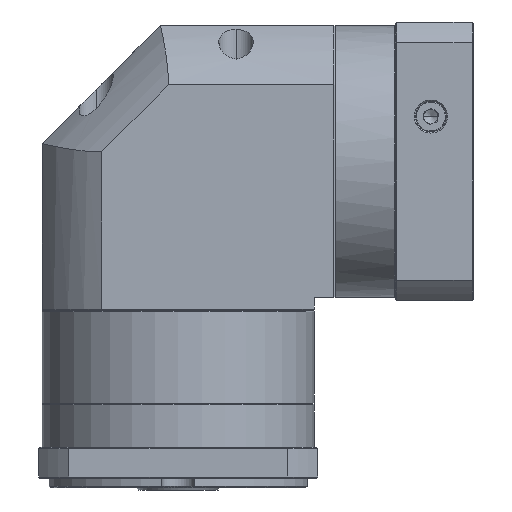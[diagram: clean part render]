
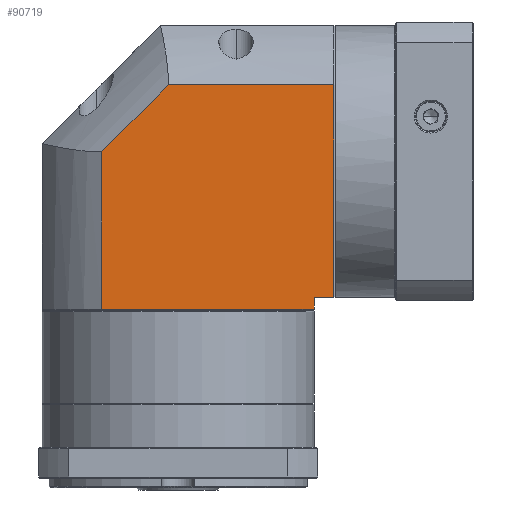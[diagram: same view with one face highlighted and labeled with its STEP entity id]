
A CAD part, front view. The second image highlights one B-rep face of the part: STEP entity #90719.
In plain terms, the highlighted planar face has unit normal (0, -1, 0).
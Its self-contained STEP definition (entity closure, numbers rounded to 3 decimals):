
#1140 = ORIENTED_EDGE ( 'NONE', *, *, #122458, .F. ) ;
#3295 = ORIENTED_EDGE ( 'NONE', *, *, #54962, .F. ) ;
#7572 = CARTESIAN_POINT ( 'NONE',  ( -49.499, -32.411, 132.64 ) ) ;
#7737 = EDGE_LOOP ( 'NONE', ( #1140, #3295, #100883, #87106, #104302, #59212, #93545 ) ) ;
#9961 = PLANE ( 'NONE',  #101643 ) ;
#14951 = CARTESIAN_POINT ( 'NONE',  ( -49.499, -32.411, 137.64 ) ) ;
#19506 = VERTEX_POINT ( 'NONE', #119291 ) ;
#21562 = VECTOR ( 'NONE', #80630, 1000. ) ;
#22300 = VECTOR ( 'NONE', #66643, 1000. ) ;
#22883 = CARTESIAN_POINT ( 'NONE',  ( -139.399, -32.411, 132.64 ) ) ;
#24945 = DIRECTION ( 'NONE',  ( -1., 0., 0. ) ) ;
#26782 = CARTESIAN_POINT ( 'NONE',  ( -139.399, -32.411, 126.14 ) ) ;
#28172 = VECTOR ( 'NONE', #46077, 1000. ) ;
#29433 = EDGE_CURVE ( 'NONE', #123903, #19506, #40595, .T. ) ;
#34221 = LINE ( 'NONE', #85607, #37332 ) ;
#35915 = LINE ( 'NONE', #64427, #28172 ) ;
#36684 = CARTESIAN_POINT ( 'NONE',  ( -111.061, -32.411, 227.54 ) ) ;
#37332 = VECTOR ( 'NONE', #105999, 1000. ) ;
#40595 = LINE ( 'NONE', #76542, #116659 ) ;
#46077 = DIRECTION ( 'NONE',  ( -1., 0., 0. ) ) ;
#48416 = DIRECTION ( 'NONE',  ( 0., 0., 1. ) ) ;
#50162 = VECTOR ( 'NONE', #24945, 1000. ) ;
#51079 = LINE ( 'NONE', #81053, #21562 ) ;
#54962 = EDGE_CURVE ( 'NONE', #125596, #127240, #123164, .T. ) ;
#57904 = DIRECTION ( 'NONE',  ( 1., 0., 0. ) ) ;
#59212 = ORIENTED_EDGE ( 'NONE', *, *, #106882, .F. ) ;
#61454 = VECTOR ( 'NONE', #48416, 1000. ) ;
#63674 = CARTESIAN_POINT ( 'NONE',  ( -164.499, -32.411, 137.64 ) ) ;
#64427 = CARTESIAN_POINT ( 'NONE',  ( -164.499, -32.411, 132.64 ) ) ;
#66643 = DIRECTION ( 'NONE',  ( 0.707, 0., 0.707 ) ) ;
#67658 = LINE ( 'NONE', #26782, #61454 ) ;
#67669 = CARTESIAN_POINT ( 'NONE',  ( -139.399, -32.411, 199.202 ) ) ;
#71870 = EDGE_CURVE ( 'NONE', #19506, #125596, #51079, .T. ) ;
#76237 = FACE_OUTER_BOUND ( 'NONE', #7737, .T. ) ;
#76542 = CARTESIAN_POINT ( 'NONE',  ( -164.499, -32.411, 227.54 ) ) ;
#77433 = EDGE_CURVE ( 'NONE', #105793, #117614, #35915, .T. ) ;
#80630 = DIRECTION ( 'NONE',  ( 0., 0., -1. ) ) ;
#81053 = CARTESIAN_POINT ( 'NONE',  ( -41.099, -32.411, 126.14 ) ) ;
#85607 = CARTESIAN_POINT ( 'NONE',  ( -49.499, -32.411, 126.14 ) ) ;
#87106 = ORIENTED_EDGE ( 'NONE', *, *, #29433, .F. ) ;
#90719 = ADVANCED_FACE ( 'NONE', ( #76237 ), #9961, .F. ) ;
#93545 = ORIENTED_EDGE ( 'NONE', *, *, #77433, .F. ) ;
#99819 = CARTESIAN_POINT ( 'NONE',  ( -164.499, -32.411, 126.14 ) ) ;
#100883 = ORIENTED_EDGE ( 'NONE', *, *, #71870, .F. ) ;
#101643 = AXIS2_PLACEMENT_3D ( 'NONE', #99819, #111052, #120203 ) ;
#102981 = LINE ( 'NONE', #126016, #22300 ) ;
#104302 = ORIENTED_EDGE ( 'NONE', *, *, #116694, .F. ) ;
#105793 = VERTEX_POINT ( 'NONE', #7572 ) ;
#105999 = DIRECTION ( 'NONE',  ( 0., 0., -1. ) ) ;
#106882 = EDGE_CURVE ( 'NONE', #117614, #126615, #67658, .T. ) ;
#111052 = DIRECTION ( 'NONE',  ( 0., 1., 0. ) ) ;
#111643 = CARTESIAN_POINT ( 'NONE',  ( -41.099, -32.411, 137.64 ) ) ;
#116659 = VECTOR ( 'NONE', #57904, 1000. ) ;
#116694 = EDGE_CURVE ( 'NONE', #126615, #123903, #102981, .T. ) ;
#117614 = VERTEX_POINT ( 'NONE', #22883 ) ;
#119291 = CARTESIAN_POINT ( 'NONE',  ( -41.099, -32.411, 227.54 ) ) ;
#120203 = DIRECTION ( 'NONE',  ( 1., 0., 0. ) ) ;
#122458 = EDGE_CURVE ( 'NONE', #127240, #105793, #34221, .T. ) ;
#123164 = LINE ( 'NONE', #63674, #50162 ) ;
#123903 = VERTEX_POINT ( 'NONE', #36684 ) ;
#125596 = VERTEX_POINT ( 'NONE', #111643 ) ;
#126016 = CARTESIAN_POINT ( 'NONE',  ( -139.399, -32.411, 199.202 ) ) ;
#126615 = VERTEX_POINT ( 'NONE', #67669 ) ;
#127240 = VERTEX_POINT ( 'NONE', #14951 ) ;
